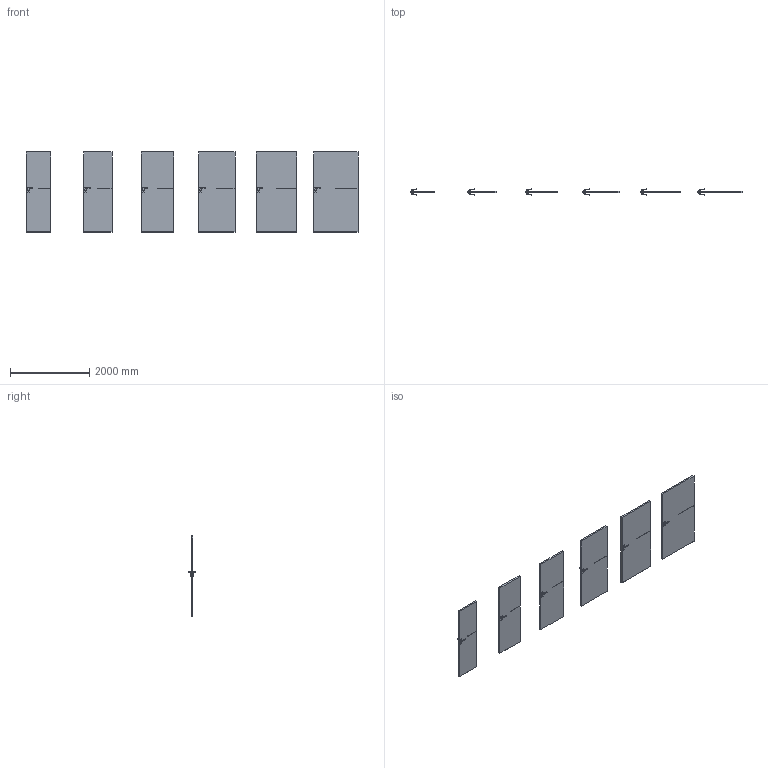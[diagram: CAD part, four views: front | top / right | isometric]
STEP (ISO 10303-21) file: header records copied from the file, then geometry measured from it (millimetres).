
FILE_DESCRIPTION(/* description */ (''),/* implementation_level */ '2;1');
FILE_NAME(/* name */ '049634_B_1-Skrzydło LINE model G.1_ polska norma _PN__ bezprzylgowe..stp',/* time_stamp */ '2024-03-19T13:30:39+01:00',/* author */ (''),/* organization */ (''),/* preprocessor_version */ 'ST-DEVELOPER v16',/* originating_system */ 'SIEMENS PLM Software NX 11.0',/* authorisation */ '');
FILE_SCHEMA (('AUTOMOTIVE_DESIGN { 1 0 10303 214 3 1 1 1 }'));
Length unit declared in the file: millimetre
Products named in the file (1): bkni0750A893l9ys
Bounding box: 8368 x 153.27 x 2017 mm (x, y, z)
Volume: 413447114.7 mm3; surface area: 22784513.5 mm2
Topology: 42 solids, 42 shells, 1176 faces, 2748 edges, 1536 vertices
Faces by surface type: plane 528, cylinder 288, bspline 192, sphere 168
Entity records: 38825 total; most frequent: CARTESIAN_POINT 13717, ORIENTED_EDGE 5160, DIRECTION 4958, EDGE_CURVE 2580, AXIS2_PLACEMENT_3D 1753, VERTEX_POINT 1536, LINE 1452, VECTOR 1452
